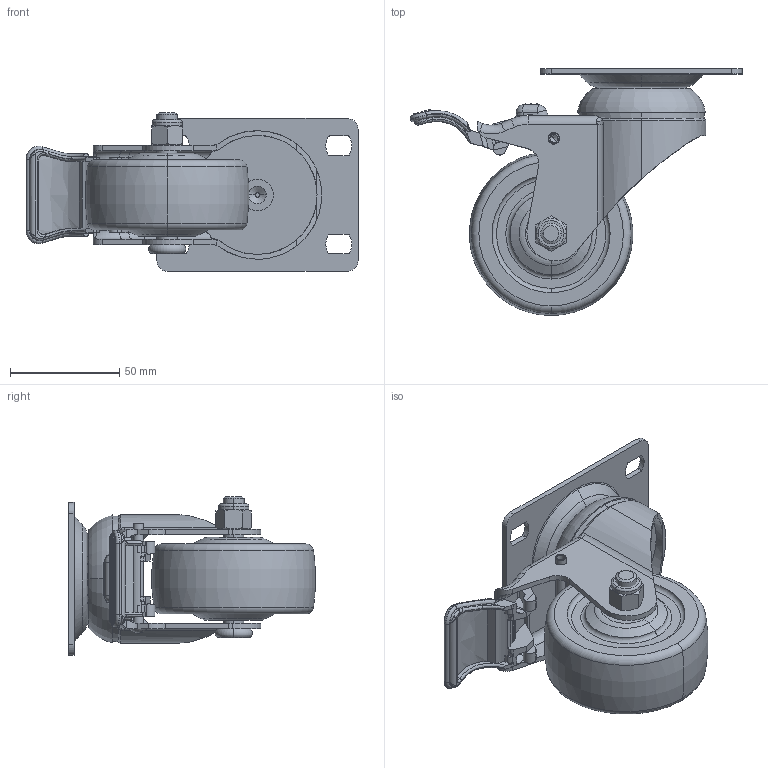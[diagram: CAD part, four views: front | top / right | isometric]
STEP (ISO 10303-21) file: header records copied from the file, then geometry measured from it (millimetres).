
FILE_DESCRIPTION (( 'STEP AP203' ), '1' );
FILE_NAME ('4111603004002-7.STEP', '2026-01-15T06:19:05', ( '' ), ( '' ), 'SwSTEP 2.0', 'SolidWorks 2019', '' );
FILE_SCHEMA (( 'CONFIG_CONTROL_DESIGN' ));
Length unit declared in the file: millimetre
Products named in the file (1): 4111603004002-7
Bounding box: 151.84 x 112.89 x 72.7 mm (x, y, z)
Volume: 225165.3 mm3; surface area: 71257.5 mm2
Topology: 7 solids, 7 shells, 597 faces, 1522 edges, 951 vertices
Faces by surface type: cylinder 185, plane 171, bspline 133, torus 78, cone 16, sphere 14
Entity records: 27545 total; most frequent: CARTESIAN_POINT 14207, ORIENTED_EDGE 3018, DIRECTION 2436, EDGE_CURVE 1509, VERTEX_POINT 951, AXIS2_PLACEMENT_3D 947, EDGE_LOOP 646, FACE_OUTER_BOUND 597
